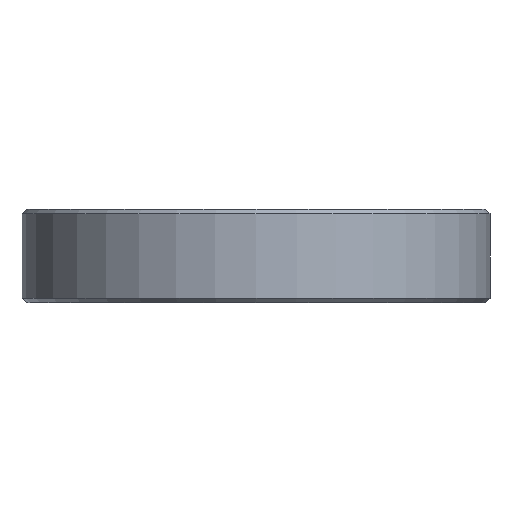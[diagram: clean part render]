
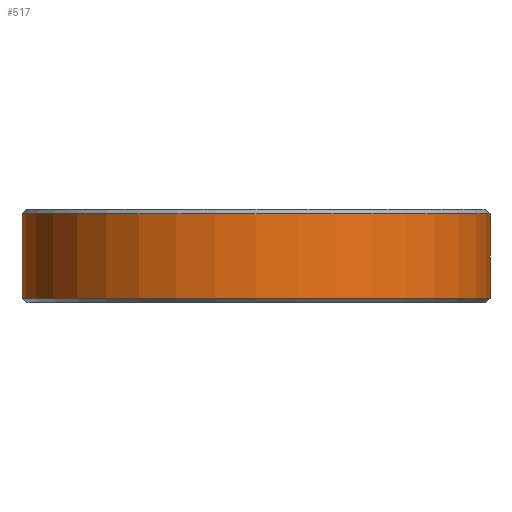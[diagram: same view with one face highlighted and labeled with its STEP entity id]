
A CAD part, front view. The second image highlights one B-rep face of the part: STEP entity #517.
In plain terms, the highlighted cylindrical face has radius 24.994 mm (diameter 49.987 mm), a partial arc.
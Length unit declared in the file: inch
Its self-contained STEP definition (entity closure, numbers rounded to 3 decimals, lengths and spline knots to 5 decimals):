
#30 = CARTESIAN_POINT ( 'NONE',  ( -0.984, 0., 0.3937 ) ) ;
#78 = CIRCLE ( 'NONE', #1174, 0.984 ) ;
#288 = DIRECTION ( 'NONE',  ( 0., 0., 1. ) ) ;
#298 = AXIS2_PLACEMENT_3D ( 'NONE', #1224, #2054, #2729 ) ;
#339 = ORIENTED_EDGE ( 'NONE', *, *, #2001, .T. ) ;
#411 = CYLINDRICAL_SURFACE ( 'NONE', #1597, 0.984 ) ;
#429 = CARTESIAN_POINT ( 'NONE',  ( 0.984, 0., 0.3737 ) ) ;
#517 = ADVANCED_FACE ( 'NONE', ( #2274 ), #411, .T. ) ;
#553 = CARTESIAN_POINT ( 'NONE',  ( -0.984, 0., 0.02 ) ) ;
#753 = CARTESIAN_POINT ( 'NONE',  ( 0.984, 0., 0.02 ) ) ;
#797 = CIRCLE ( 'NONE', #298, 0.984 ) ;
#844 = DIRECTION ( 'NONE',  ( 0., 0., -1. ) ) ;
#876 = DIRECTION ( 'NONE',  ( 0., 0., -1. ) ) ;
#931 = ORIENTED_EDGE ( 'NONE', *, *, #1635, .T. ) ;
#948 = VERTEX_POINT ( 'NONE', #1758 ) ;
#1174 = AXIS2_PLACEMENT_3D ( 'NONE', #1347, #288, #1552 ) ;
#1189 = DIRECTION ( 'NONE',  ( 0., 0., -1. ) ) ;
#1224 = CARTESIAN_POINT ( 'NONE',  ( 0., 0., 0.3737 ) ) ;
#1347 = CARTESIAN_POINT ( 'NONE',  ( 0., 0., 0.02 ) ) ;
#1381 = EDGE_LOOP ( 'NONE', ( #1394, #931, #1904, #339 ) ) ;
#1394 = ORIENTED_EDGE ( 'NONE', *, *, #2364, .F. ) ;
#1552 = DIRECTION ( 'NONE',  ( 1., 0., 0. ) ) ;
#1597 = AXIS2_PLACEMENT_3D ( 'NONE', #2051, #1189, #2250 ) ;
#1609 = VERTEX_POINT ( 'NONE', #753 ) ;
#1635 = EDGE_CURVE ( 'NONE', #1740, #948, #797, .T. ) ;
#1740 = VERTEX_POINT ( 'NONE', #429 ) ;
#1758 = CARTESIAN_POINT ( 'NONE',  ( -0.984, 0., 0.3737 ) ) ;
#1813 = LINE ( 'NONE', #30, #2693 ) ;
#1904 = ORIENTED_EDGE ( 'NONE', *, *, #2348, .T. ) ;
#1944 = CARTESIAN_POINT ( 'NONE',  ( 0.984, 0., 0.3937 ) ) ;
#2001 = EDGE_CURVE ( 'NONE', #2233, #1609, #78, .T. ) ;
#2051 = CARTESIAN_POINT ( 'NONE',  ( 0., 0., 0.3937 ) ) ;
#2054 = DIRECTION ( 'NONE',  ( 0., 0., -1. ) ) ;
#2233 = VERTEX_POINT ( 'NONE', #553 ) ;
#2250 = DIRECTION ( 'NONE',  ( -1., 0., 0. ) ) ;
#2274 = FACE_OUTER_BOUND ( 'NONE', #1381, .T. ) ;
#2279 = LINE ( 'NONE', #1944, #2554 ) ;
#2348 = EDGE_CURVE ( 'NONE', #948, #2233, #1813, .T. ) ;
#2364 = EDGE_CURVE ( 'NONE', #1740, #1609, #2279, .T. ) ;
#2554 = VECTOR ( 'NONE', #876, 39.37008 ) ;
#2693 = VECTOR ( 'NONE', #844, 39.37008 ) ;
#2729 = DIRECTION ( 'NONE',  ( 1., 0., 0. ) ) ;
